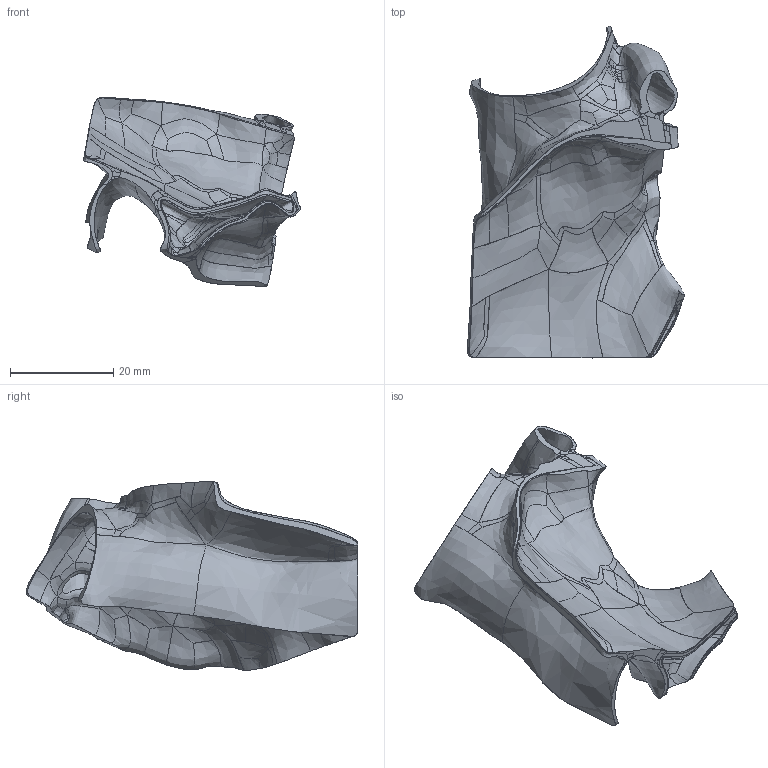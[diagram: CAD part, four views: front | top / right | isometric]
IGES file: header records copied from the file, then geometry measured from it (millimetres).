
Global section: file name: C:\FDA Main\FDA-Septal-Models\6216810\6216810.phase.40.igs; native system: Rhinoceros ( Mar  9 2011 ); preprocessor: Trout Lake IGES 012 Mar  9 2011; date: 120611.031551; units: millimetre
Bounding box: 42.11 x 64.37 x 36.78 mm (x, y, z)
Surface area: 9493.4 mm2 (no closed solid volume)
Topology: 0 solids, 0 shells, 496 faces, 1983 edges, 1982 vertices
Faces by surface type: bspline 496
